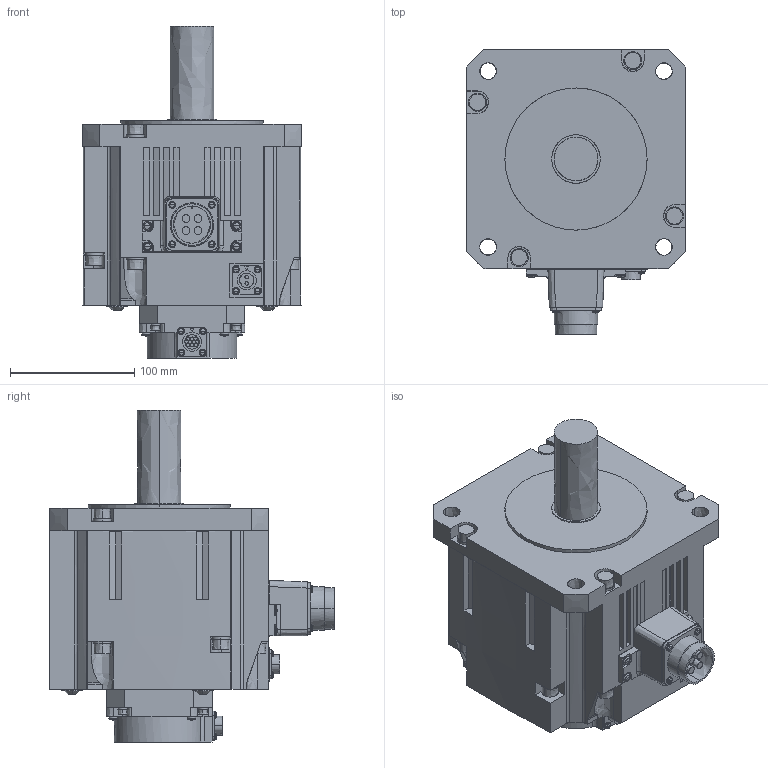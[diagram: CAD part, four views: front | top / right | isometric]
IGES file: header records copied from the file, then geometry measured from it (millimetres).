
Start section:  PTC IGES file: hk-st202wb_.igs
Global section: file name: hk-st202wb_.igs; native system: Creo Parametric by PTC Inc.; preprocessor: 2016380; author: XE90682; organization: Unknown; date: 20190118.092411; units: millimetre
Bounding box: 176 x 228.8 x 267 mm (x, y, z)
Volume: 4364574.2 mm3; surface area: 215470 mm2
Topology: 1 solids, 1 shells, 645 faces, 1570 edges, 994 vertices
Faces by surface type: bspline 645
